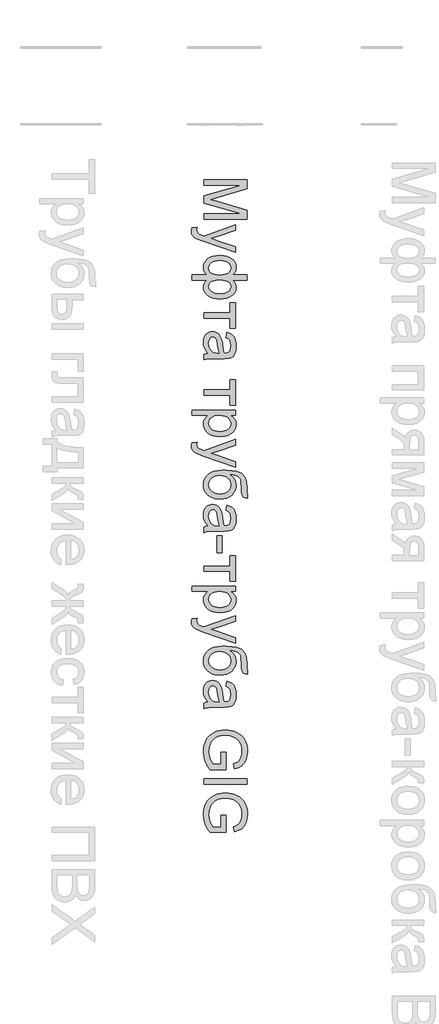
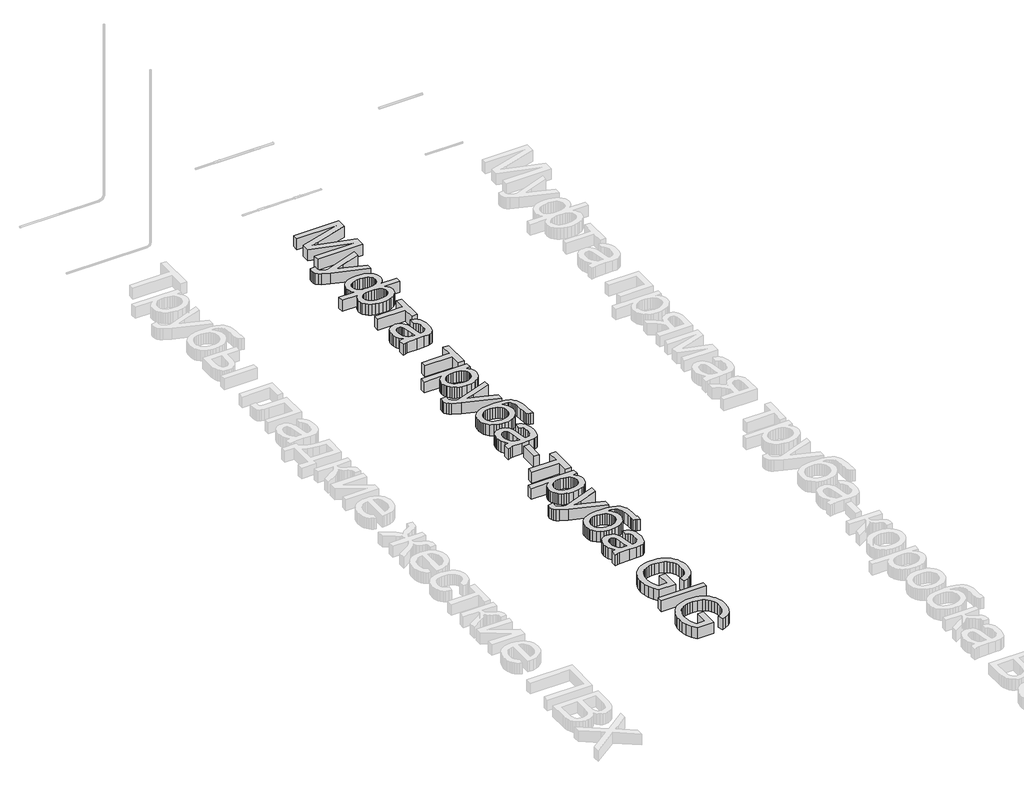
# One storey, part 12 of 33: 1 proxy.
"""IFC4 building model written with IfcOpenShell, lengths in millimetres."""

from ifc_helpers import new_model, si_unit, origin, origin_with_axes, place, context, project, spatial, polyline, outline, extrude, element, save

model = new_model("IFC4")

# Units and contexts
model_context = context("Model", 3, world=origin())
ifc_project = project(units=[si_unit("LENGTHUNIT", "METRE", prefix="MILLI")], contexts=[model_context])

# Site, building, storey
site = spatial("IfcSite", under=ifc_project)
building = spatial("IfcBuilding", under=site)
storey = spatial("IfcBuildingStorey", under=building, Name="Уровень 1", Elevation=0.0)

# Proxy
placement = place(None, origin())
element("IfcBuildingElementProxy", 1, Name="Надпись на модели 1", ObjectType="Надпись на модели 1", at=placement, inside=storey, context=model_context, shape_type="SweptSolid", body=[
    extrude(outline(polyline([(5224.4625724, -797.7209838), (5815.2318032, -797.7209838), (5815.2318032, -924.7882915), (5398.8375724, -1045.6536761), (5311.8664186, -1070.0286761), (5406.0491109, -1096.4229069), (5815.2318032, -1215.2690607), (5815.2318032, -1342.3363684), (5224.4625724, -1342.3363684), (5224.4625724, -1268.4902146), (5741.3856493, -1268.4902146), (5224.4625724, -1120.0767531), (5224.4625724, -1019.9805992), (5741.3856493, -871.5671377), (5224.4625724, -871.5671377), (5224.4625724, -797.7209838)])), origin_with_axes(), (0.0, 0.0, 1.0), 150.0),
    extrude(outline(polyline([(5058.3087262, -1462.3363684), (5129.4144955, -1453.1055992), (5122.9241109, -1490.6055992), (5124.9613705, -1510.3291569), (5131.0731493, -1525.6536761), (5140.8267551, -1537.5887723), (5153.7894955, -1547.1440607), (5208.1644955, -1567.3363684), (5226.0491109, -1573.1055992), (5658.3087262, -1416.1825223), (5658.3087262, -1494.0671377), (5417.4433416, -1577.2882915), (5321.0971878, -1606.2786761), (5406.1933416, -1635.2690607), (5658.3087262, -1720.7979069), (5658.3087262, -1798.1055992), (5214.077957, -1647.0959838), (5117.7318032, -1607.8652146), (5086.9745916, -1587.78108), (5065.6644955, -1565.0286761), (5053.2245916, -1538.5983877), (5049.077957, -1507.4805992), (5051.3856493, -1486.0983877), (5058.3087262, -1462.3363684)])), origin_with_axes(), (0.0, 0.0, 1.0), 150.0),
    extrude(outline(polyline([(5815.2318032, -2108.4902146), (5815.2318032, -2182.3363684), (5616.6260339, -2182.3363684), (5639.0358897, -2204.7462242), (5654.9193032, -2229.2834838), (5664.3844474, -2255.8399742), (5667.5394955, -2284.3075223), (5663.5280772, -2318.4947218), (5651.4938224, -2348.9409357), (5631.4367311, -2375.6461641), (5603.3568032, -2398.6104069), (5569.1921397, -2417.0674381), (5530.8808416, -2430.2510319), (5488.4229089, -2438.1611881), (5441.8183416, -2440.7979069), (5393.4875123, -2437.9583636), (5350.0334859, -2429.4397338), (5311.4562623, -2415.2420175), (5277.7558416, -2395.3652146), (5250.4015748, -2371.2696617), (5230.8628128, -2344.4156954), (5219.1395556, -2314.8033156), (5215.2318032, -2282.4325223), (5217.0346878, -2260.0406954), (5222.4433416, -2237.2882915), (5235.8928609, -2212.0839646), (5261.8183416, -2182.3363684), (5058.3087262, -2182.3363684), (5058.3087262, -2108.4902146), (5261.8183416, -2108.4902146), (5241.4818032, -2086.0262723), (5226.9144955, -2061.3267531), (5218.1524762, -2034.4637723), (5215.2318032, -2005.5094454), (5218.9637743, -1973.5262723), (5230.1596878, -1943.6344454), (5248.8195436, -1915.8339646), (5274.9433416, -1890.12483), (5308.0172599, -1868.5443011), (5347.5274762, -1853.1296377), (5393.4739907, -1843.8808396), (5445.8568032, -1840.7979069), (5491.0461061, -1843.5878708), (5532.4313224, -1851.9577627), (5570.0124522, -1865.9075824), (5603.7894955, -1885.43733), (5631.6801205, -1909.6816208), (5651.6019955, -1937.7750704), (5663.5551205, -1969.7176785), (5667.5394955, -2005.5094454), (5664.3844474, -2035.5995896), (5654.9193032, -2062.6969454), (5639.0358897, -2086.9457434), (5616.6260339, -2108.4902146), (5815.2318032, -2108.4902146)]), holes=[polyline([(5440.0875724, -2181.9036761), (5399.0403969, -2183.4406353), (5365.3219474, -2188.0515127), (5338.9322238, -2195.7363083), (5319.8712262, -2206.4950223), (5306.399171, -2219.570443), (5296.7762743, -2234.2053588), (5291.0025363, -2250.3997699), (5289.077957, -2268.1536761), (5291.4442431, -2287.881741), (5298.5431012, -2306.1043973), (5310.3745315, -2322.8216449), (5326.9385339, -2338.0334838), (5348.4875123, -2350.6852266), (5375.2738705, -2359.7221857), (5407.2976085, -2365.1443612), (5444.5587262, -2366.9517531), (5479.8051205, -2365.2840848), (5510.2558416, -2360.28108), (5535.9108897, -2351.9427386), (5556.7702647, -2340.2690607), (5572.9241109, -2325.9812002), (5584.4625724, -2309.8003107), (5591.3856493, -2291.7263925), (5593.6933416, -2271.7594454), (5591.2909979, -2250.7873901), (5584.0839666, -2232.5827627), (5572.0722479, -2217.1455631), (5555.2558416, -2204.4757915), (5533.6437623, -2194.600491), (5507.2450243, -2187.546705), (5476.0596277, -2183.3144333), (5440.0875724, -2181.9036761)]), polyline([(5447.4433416, -1914.6440607), (5408.2756734, -1916.4920175), (5375.0034378, -1922.0358877), (5347.6266349, -1931.2756713), (5326.1452647, -1944.2113684), (5309.9283176, -1959.8874502), (5298.3447839, -1977.3483877), (5291.3946637, -1996.5941809), (5289.077957, -2017.62483), (5291.3811421, -2039.1107074), (5298.2906974, -2057.702955), (5309.8066229, -2073.4015728), (5325.9289186, -2086.2065607), (5346.6575844, -2096.1449622), (5371.9926205, -2103.2438204), (5401.9340267, -2107.5031353), (5436.4818032, -2108.9229069), (5473.3282575, -2107.4310199), (5505.2618512, -2102.9553588), (5532.2825844, -2095.4959237), (5554.390457, -2085.0527146), (5571.585469, -2071.5986881), (5583.8676205, -2055.1068011), (5591.2369113, -2035.5770535), (5593.6933416, -2013.0094454), (5591.2955051, -1992.2402146), (5584.1019955, -1973.4902146), (5572.1128128, -1956.7594454), (5555.327957, -1942.0479069), (5534.1981493, -1930.0587242), (5509.1741109, -1921.4950223), (5480.2558416, -1916.3568011), (5447.4433416, -1914.6440607)])]), origin_with_axes(), (0.0, 0.0, 1.0), 150.0),
    extrude(outline(polyline([(5658.3087262, -2496.1825223), (5658.3087262, -2846.9517531), (5584.4625724, -2846.9517531), (5584.4625724, -2708.4902146), (5224.4625724, -2708.4902146), (5224.4625724, -2634.6440607), (5584.4625724, -2634.6440607), (5584.4625724, -2496.1825223), (5658.3087262, -2496.1825223)])), origin_with_axes(), (0.0, 0.0, 1.0), 150.0),
    extrude(outline(polyline([(5279.8471878, -3188.4902146), (5249.5947839, -3153.2077627), (5229.7991109, -3116.8796377), (5218.8736301, -3078.6765127), (5215.2318032, -3037.7690607), (5217.422308, -3004.8889526), (5223.9938224, -2976.0563204), (5234.9463464, -2951.2711641), (5250.2798801, -2930.5334838), (5269.0208657, -2914.1587843), (5290.1957455, -2902.4625704), (5313.8045195, -2895.444842), (5339.8471878, -2893.1055992), (5370.4601686, -2896.6392531), (5398.2606493, -2907.2402146), (5422.0587262, -2923.5923781), (5440.6644955, -2944.3796377), (5454.7269955, -2968.8087242), (5464.8952647, -2996.0863684), (5476.0010339, -3059.9805992), (5487.6837262, -3135.4854069), (5501.3856493, -3188.0575223), (5517.827957, -3188.4902146), (5550.7846878, -3183.40608), (5562.9902166, -3177.0509117), (5572.3471878, -3168.1536761), (5581.6861301, -3152.7750704), (5588.3568032, -3134.0430992), (5593.6933416, -3086.5190607), (5590.1416589, -3042.5286761), (5579.4866109, -3011.8075223), (5559.781082, -2990.8580031), (5529.077957, -2976.1825223), (5538.3087262, -2902.3363684), (5578.6933416, -2915.1548781), (5610.4241109, -2934.2834838), (5634.6909378, -2961.5070415), (5652.6837262, -2998.6104069), (5663.8255532, -3043.9890127), (5667.5394955, -3096.0382915), (5664.2582455, -3145.9601665), (5654.4144955, -3185.5334838), (5639.6128128, -3215.3712242), (5621.4577647, -3236.0863684), (5599.0118512, -3249.8243492), (5571.3375724, -3258.7305992), (5506.7221878, -3262.3363684), (5414.8471878, -3262.3363684), (5286.5539186, -3266.0863684), (5254.8411782, -3271.6392531), (5224.4625724, -3280.7979069), (5224.4625724, -3206.9517531), (5250.1356493, -3195.12483), (5279.8471878, -3188.4902146)]), holes=[polyline([(5427.5394955, -3188.4902146), (5415.2438224, -3138.87483), (5404.8952647, -3069.3555992), (5392.9241109, -3005.8219454), (5384.7390147, -2989.2894934), (5373.452957, -2977.0479069), (5359.9313224, -2969.4757915), (5345.0394955, -2966.9517531), (5323.0803609, -2972.4505511), (5305.0875724, -2988.9469454), (5293.0803609, -3016.0803588), (5289.077957, -3053.4902146), (5293.4950243, -3093.1536761), (5306.7462262, -3128.2017531), (5326.2714666, -3156.6152146), (5349.5106493, -3176.37483), (5373.452957, -3185.1368492), (5406.6260339, -3188.0575223), (5427.5394955, -3188.4902146)])]), origin_with_axes(), (0.0, 0.0, 1.0), 150.0),
    extrude(outline(polyline([(5658.3087262, -3557.7209838), (5658.3087262, -3908.4902146), (5584.4625724, -3908.4902146), (5584.4625724, -3770.0286761), (5224.4625724, -3770.0286761), (5224.4625724, -3696.1825223), (5584.4625724, -3696.1825223), (5584.4625724, -3557.7209838), (5658.3087262, -3557.7209838)])), origin_with_axes(), (0.0, 0.0, 1.0), 150.0),
    extrude(outline(polyline([(5058.3087262, -3973.1055992), (5658.3087262, -3973.1055992), (5658.3087262, -4046.9517531), (5585.9048801, -4046.9517531), (5621.6200243, -4071.0382915), (5647.1308416, -4098.0094454), (5662.437332, -4129.4517531), (5667.5394955, -4166.9517531), (5665.7546397, -4192.7059598), (5660.4000724, -4216.8916569), (5651.4757936, -4239.5088444), (5638.9818032, -4260.5575223), (5623.2426205, -4279.577955), (5604.5827647, -4296.1104069), (5583.0022359, -4310.1548781), (5558.5010339, -4321.7113684), (5504.0899762, -4337.1801184), (5444.702957, -4342.3363684), (5381.5479089, -4336.5130511), (5352.4718873, -4329.2339045), (5325.0635339, -4319.0430992), (5300.0394955, -4306.0803588), (5278.1164186, -4290.4854069), (5259.2943032, -4272.2582434), (5243.5731493, -4251.3988684), (5231.1738104, -4228.9304189), (5222.3171397, -4205.8760319), (5217.0031373, -4182.2357074), (5215.2318032, -4158.0094454), (5219.9733897, -4124.0611281), (5234.1981493, -4093.7546377), (5255.6705051, -4067.8111281), (5282.1548801, -4046.9517531), (5058.3087262, -4046.9517531), (5058.3087262, -3973.1055992)]), holes=[polyline([(5437.9241109, -4046.9517531), (5402.3351686, -4048.9484478), (5371.7221878, -4054.9385319), (5346.0851686, -4064.9220055), (5325.4241109, -4078.8988684), (5309.5226686, -4095.7242891), (5298.1644955, -4114.2534357), (5291.3495916, -4134.4863083), (5289.077957, -4156.4229069), (5291.4307214, -4178.6750103), (5298.4890147, -4199.2774742), (5310.2528368, -4218.2302987), (5326.7221878, -4235.5334838), (5348.1314426, -4249.9520535), (5374.7149762, -4260.2510319), (5406.4727887, -4266.4304189), (5443.4048801, -4268.4902146), (5478.687332, -4266.4799982), (5509.2462262, -4260.4493492), (5535.0815628, -4250.3982675), (5556.1933416, -4236.3267531), (5572.5995916, -4219.4607675), (5584.3183416, -4201.0262723), (5591.3495916, -4181.0232675), (5593.6933416, -4159.4517531), (5591.2008537, -4137.9478468), (5583.7233897, -4117.7149742), (5571.2609498, -4098.7531353), (5553.8135339, -4081.06233), (5531.6155171, -4066.1389526), (5504.9012743, -4055.4793973), (5473.6708056, -4049.0836641), (5437.9241109, -4046.9517531)])]), origin_with_axes(), (0.0, 0.0, 1.0), 150.0),
    extrude(outline(polyline([(5058.3087262, -4425.4132915), (5129.4144955, -4416.1825223), (5122.9241109, -4453.6825223), (5124.9613705, -4473.40608), (5131.0731493, -4488.7305992), (5140.8267551, -4500.6656954), (5153.7894955, -4510.2209838), (5208.1644955, -4530.4132915), (5226.0491109, -4536.1825223), (5658.3087262, -4379.2594454), (5658.3087262, -4457.1440607), (5417.4433416, -4540.3652146), (5321.0971878, -4569.3555992), (5406.1933416, -4598.3459838), (5658.3087262, -4683.87483), (5658.3087262, -4761.1825223), (5214.077957, -4610.1729069), (5117.7318032, -4570.9421377), (5086.9745916, -4550.8580031), (5065.6644955, -4528.1055992), (5053.2245916, -4501.6753107), (5049.077957, -4470.5575223), (5051.3856493, -4449.1753107), (5058.3087262, -4425.4132915)])), origin_with_axes(), (0.0, 0.0, 1.0), 150.0),
    extrude(outline(polyline([(5824.4625724, -5126.9517531), (5824.4625724, -5191.5671377), (5789.3604089, -5184.5719454), (5766.8423801, -5172.5286761), (5753.5190628, -5155.8339646), (5746.0010339, -5134.8844454), (5742.5394955, -5100.7378107), (5741.3856493, -5044.4517531), (5737.1308416, -4969.3616088), (5731.812332, -4942.4580631), (5724.3664186, -4922.6488684), (5714.5767551, -4907.5316809), (5702.2269955, -4894.7041569), (5687.3171397, -4884.1662963), (5669.8471878, -4875.9180992), (5626.9745916, -4864.8664165), (5573.3568032, -4860.12483), (5614.6068032, -4889.8183396), (5644.0298801, -4924.0911761), (5661.6620916, -4962.9793973), (5667.5394955, -5006.5190607), (5663.8030171, -5046.7504309), (5652.593582, -5083.3580031), (5633.9111902, -5116.3417771), (5607.7558416, -5145.7017531), (5575.227296, -5169.8063204), (5537.4253128, -5187.0238684), (5494.3498921, -5197.3543973), (5446.0010339, -5200.7979069), (5409.0148561, -5199.0896737), (5375.5082455, -5193.9649742), (5345.4812022, -5185.4238083), (5318.9337262, -5173.4661761), (5274.9613705, -5143.5923781), (5242.2750724, -5108.6344454), (5230.4436421, -5088.1897338), (5221.9926205, -5064.3555992), (5216.9220075, -5037.1320415), (5215.2318032, -5006.5190607), (5217.4087863, -4971.1058997), (5223.9397359, -4939.8664165), (5234.8246517, -4912.8006112), (5250.0635339, -4889.9084838), (5268.6963464, -4870.3156353), (5289.7630532, -4853.1476665), (5313.2636541, -4838.4045776), (5339.1981493, -4826.0863684), (5371.3841469, -4816.3688204), (5413.6392551, -4809.4277146), (5465.9634738, -4805.2630511), (5528.3568032, -4803.87483), (5606.1107094, -4807.3769333), (5670.0455051, -4817.8832434), (5720.1611902, -4835.3937603), (5740.0368663, -4846.7755962), (5756.4577647, -4859.9084838), (5782.1714065, -4891.6888324), (5800.5382936, -4930.9962242), (5811.5584258, -4977.8306593), (5815.2318032, -5032.1921377), (5816.890457, -5114.4036761), (5819.6128128, -5122.4445415), (5824.4625724, -5126.9517531)]), holes=[polyline([(5448.3087262, -5126.9517531), (5478.8090267, -5124.9505511), (5506.4156974, -5118.9469454), (5531.1287383, -5108.9409357), (5552.9481493, -5094.9325223), (5570.774171, -5077.2822819), (5583.5070436, -5056.3507915), (5591.1467671, -5032.1380511), (5593.6933416, -5004.6440607), (5591.0025363, -4975.9511521), (5582.9301205, -4950.7378107), (5569.476094, -4929.0040367), (5550.640457, -4910.74983), (5527.3066229, -4896.2997098), (5500.3580051, -4885.9781954), (5469.7946037, -4879.7852867), (5435.6164186, -4877.7209838), (5402.1503729, -4880.0016329), (5372.8580051, -4886.84358), (5347.7393152, -4898.2468252), (5326.7943032, -4914.2113684), (5310.2934017, -4933.5202627), (5298.5070436, -4954.9565607), (5291.4352287, -4978.5202627), (5289.077957, -5004.2113684), (5291.80482, -5030.2540367), (5299.9854089, -5053.71858), (5313.6197238, -5074.6049982), (5332.7077647, -5092.9132915), (5356.2940027, -5107.8051184), (5383.4229089, -5118.4421377), (5414.0944835, -5124.8243492), (5448.3087262, -5126.9517531)])]), origin_with_axes(), (0.0, 0.0, 1.0), 150.0),
    extrude(outline(polyline([(5279.8471878, -5570.0286761), (5249.5947839, -5534.7462242), (5229.7991109, -5498.4180992), (5218.8736301, -5460.2149742), (5215.2318032, -5419.3075223), (5217.422308, -5386.4274141), (5223.9938224, -5357.5947819), (5234.9463464, -5332.8096256), (5250.2798801, -5312.0719454), (5269.0208657, -5295.6972458), (5290.1957455, -5284.0010319), (5313.8045195, -5276.9833035), (5339.8471878, -5274.6440607), (5370.4601686, -5278.1777146), (5398.2606493, -5288.7786761), (5422.0587262, -5305.1308396), (5440.6644955, -5325.9180992), (5454.7269955, -5350.3471857), (5464.8952647, -5377.62483), (5476.0010339, -5441.5190607), (5487.6837262, -5517.0238684), (5501.3856493, -5569.5959838), (5517.827957, -5570.0286761), (5550.7846878, -5564.9445415), (5562.9902166, -5558.5893732), (5572.3471878, -5549.6921377), (5581.6861301, -5534.3135319), (5588.3568032, -5515.5815607), (5593.6933416, -5468.0575223), (5590.1416589, -5424.0671377), (5579.4866109, -5393.3459838), (5559.781082, -5372.3964646), (5529.077957, -5357.7209838), (5538.3087262, -5283.87483), (5578.6933416, -5296.6933396), (5610.4241109, -5315.8219454), (5634.6909378, -5343.0455031), (5652.6837262, -5380.1488684), (5663.8255532, -5425.5274742), (5667.5394955, -5477.5767531), (5664.2582455, -5527.4986281), (5654.4144955, -5567.0719454), (5639.6128128, -5596.9096857), (5621.4577647, -5617.62483), (5599.0118512, -5631.3628107), (5571.3375724, -5640.2690607), (5506.7221878, -5643.87483), (5414.8471878, -5643.87483), (5286.5539186, -5647.62483), (5254.8411782, -5653.1777146), (5224.4625724, -5662.3363684), (5224.4625724, -5588.4902146), (5250.1356493, -5576.6632915), (5279.8471878, -5570.0286761)]), holes=[polyline([(5427.5394955, -5570.0286761), (5415.2438224, -5520.4132915), (5404.8952647, -5450.8940607), (5392.9241109, -5387.3604069), (5384.7390147, -5370.827955), (5373.452957, -5358.5863684), (5359.9313224, -5351.0142531), (5345.0394955, -5348.4902146), (5323.0803609, -5353.9890127), (5305.0875724, -5370.4854069), (5293.0803609, -5397.6188204), (5289.077957, -5435.0286761), (5293.4950243, -5474.6921377), (5306.7462262, -5509.7402146), (5326.2714666, -5538.1536761), (5349.5106493, -5557.9132915), (5373.452957, -5566.6753107), (5406.6260339, -5569.5959838), (5427.5394955, -5570.0286761)])]), origin_with_axes(), (0.0, 0.0, 1.0), 150.0),
    extrude(outline(polyline([(5399.8471878, -5708.4902146), (5473.6933416, -5708.4902146), (5473.6933416, -5939.2594454), (5399.8471878, -5939.2594454), (5399.8471878, -5708.4902146)])), origin_with_axes(), (0.0, 0.0, 1.0), 150.0),
    extrude(outline(polyline([(5658.3087262, -5985.4132915), (5658.3087262, -6336.1825223), (5584.4625724, -6336.1825223), (5584.4625724, -6197.7209838), (5224.4625724, -6197.7209838), (5224.4625724, -6123.87483), (5584.4625724, -6123.87483), (5584.4625724, -5985.4132915), (5658.3087262, -5985.4132915)])), origin_with_axes(), (0.0, 0.0, 1.0), 150.0),
    extrude(outline(polyline([(5058.3087262, -6400.7979069), (5658.3087262, -6400.7979069), (5658.3087262, -6474.6440607), (5585.9048801, -6474.6440607), (5621.6200243, -6498.7305992), (5647.1308416, -6525.7017531), (5662.437332, -6557.1440607), (5667.5394955, -6594.6440607), (5665.7546397, -6620.3982675), (5660.4000724, -6644.5839646), (5651.4757936, -6667.2011521), (5638.9818032, -6688.24983), (5623.2426205, -6707.2702627), (5604.5827647, -6723.8027146), (5583.0022359, -6737.8471857), (5558.5010339, -6749.4036761), (5504.0899762, -6764.8724261), (5444.702957, -6770.0286761), (5381.5479089, -6764.2053588), (5352.4718873, -6756.9262122), (5325.0635339, -6746.7354069), (5300.0394955, -6733.7726665), (5278.1164186, -6718.1777146), (5259.2943032, -6699.9505511), (5243.5731493, -6679.0911761), (5231.1738104, -6656.6227266), (5222.3171397, -6633.5683396), (5217.0031373, -6609.9280151), (5215.2318032, -6585.7017531), (5219.9733897, -6551.7534357), (5234.1981493, -6521.4469454), (5255.6705051, -6495.5034357), (5282.1548801, -6474.6440607), (5058.3087262, -6474.6440607), (5058.3087262, -6400.7979069)]), holes=[polyline([(5437.9241109, -6474.6440607), (5402.3351686, -6476.6407555), (5371.7221878, -6482.6308396), (5346.0851686, -6492.6143131), (5325.4241109, -6506.5911761), (5309.5226686, -6523.4165968), (5298.1644955, -6541.9457434), (5291.3495916, -6562.178616), (5289.077957, -6584.1152146), (5291.4307214, -6606.367318), (5298.4890147, -6626.9697819), (5310.2528368, -6645.9226064), (5326.7221878, -6663.2257915), (5348.1314426, -6677.6443612), (5374.7149762, -6687.9433396), (5406.4727887, -6694.1227266), (5443.4048801, -6696.1825223), (5478.687332, -6694.1723059), (5509.2462262, -6688.1416569), (5535.0815628, -6678.0905752), (5556.1933416, -6664.0190607), (5572.5995916, -6647.1530752), (5584.3183416, -6628.71858), (5591.3495916, -6608.7155752), (5593.6933416, -6587.1440607), (5591.2008537, -6565.6401545), (5583.7233897, -6545.4072819), (5571.2609498, -6526.445443), (5553.8135339, -6508.7546377), (5531.6155171, -6493.8312603), (5504.9012743, -6483.171705), (5473.6708056, -6476.7759718), (5437.9241109, -6474.6440607)])]), origin_with_axes(), (0.0, 0.0, 1.0), 150.0),
    extrude(outline(polyline([(5058.3087262, -6853.1055992), (5129.4144955, -6843.87483), (5122.9241109, -6881.37483), (5124.9613705, -6901.0983877), (5131.0731493, -6916.4229069), (5140.8267551, -6928.3580031), (5153.7894955, -6937.9132915), (5208.1644955, -6958.1055992), (5226.0491109, -6963.87483), (5658.3087262, -6806.9517531), (5658.3087262, -6884.8363684), (5417.4433416, -6968.0575223), (5321.0971878, -6997.0479069), (5406.1933416, -7026.0382915), (5658.3087262, -7111.5671377), (5658.3087262, -7188.87483), (5214.077957, -7037.8652146), (5117.7318032, -6998.6344454), (5086.9745916, -6978.5503107), (5065.6644955, -6955.7979069), (5053.2245916, -6929.3676184), (5049.077957, -6898.24983), (5051.3856493, -6876.8676184), (5058.3087262, -6853.1055992)])), origin_with_axes(), (0.0, 0.0, 1.0), 150.0),
    extrude(outline(polyline([(5824.4625724, -7554.6440607), (5824.4625724, -7619.2594454), (5789.3604089, -7612.2642531), (5766.8423801, -7600.2209838), (5753.5190628, -7583.5262723), (5746.0010339, -7562.5767531), (5742.5394955, -7528.4301184), (5741.3856493, -7472.1440607), (5737.1308416, -7397.0539165), (5731.812332, -7370.1503708), (5724.3664186, -7350.3411761), (5714.5767551, -7335.2239886), (5702.2269955, -7322.3964646), (5687.3171397, -7311.858604), (5669.8471878, -7303.6104069), (5626.9745916, -7292.5587242), (5573.3568032, -7287.8171377), (5614.6068032, -7317.5106473), (5644.0298801, -7351.7834838), (5661.6620916, -7390.671705), (5667.5394955, -7434.2113684), (5663.8030171, -7474.4427386), (5652.593582, -7511.0503107), (5633.9111902, -7544.0340848), (5607.7558416, -7573.3940607), (5575.227296, -7597.4986281), (5537.4253128, -7614.7161761), (5494.3498921, -7625.046705), (5446.0010339, -7628.4902146), (5409.0148561, -7626.7819814), (5375.5082455, -7621.6572819), (5345.4812022, -7613.116116), (5318.9337262, -7601.1584838), (5274.9613705, -7571.2846857), (5242.2750724, -7536.3267531), (5230.4436421, -7515.8820415), (5221.9926205, -7492.0479069), (5216.9220075, -7464.8243492), (5215.2318032, -7434.2113684), (5217.4087863, -7398.7982074), (5223.9397359, -7367.5587242), (5234.8246517, -7340.4929189), (5250.0635339, -7317.6007915), (5268.6963464, -7298.007943), (5289.7630532, -7280.8399742), (5313.2636541, -7266.0968853), (5339.1981493, -7253.7786761), (5371.3841469, -7244.0611281), (5413.6392551, -7237.1200223), (5465.9634738, -7232.9553588), (5528.3568032, -7231.5671377), (5606.1107094, -7235.069241), (5670.0455051, -7245.5755511), (5720.1611902, -7263.086068), (5740.0368663, -7274.4679039), (5756.4577647, -7287.6007915), (5782.1714065, -7319.3811401), (5800.5382936, -7358.6885319), (5811.5584258, -7405.522967), (5815.2318032, -7459.8844454), (5816.890457, -7542.0959838), (5819.6128128, -7550.1368492), (5824.4625724, -7554.6440607)]), holes=[polyline([(5448.3087262, -7554.6440607), (5478.8090267, -7552.6428588), (5506.4156974, -7546.6392531), (5531.1287383, -7536.6332434), (5552.9481493, -7522.62483), (5570.774171, -7504.9745896), (5583.5070436, -7484.0430992), (5591.1467671, -7459.8303588), (5593.6933416, -7432.3363684), (5591.0025363, -7403.6434598), (5582.9301205, -7378.4301184), (5569.476094, -7356.6963444), (5550.640457, -7338.4421377), (5527.3066229, -7323.9920175), (5500.3580051, -7313.6705031), (5469.7946037, -7307.4775944), (5435.6164186, -7305.4132915), (5402.1503729, -7307.6939406), (5372.8580051, -7314.5358877), (5347.7393152, -7325.9391329), (5326.7943032, -7341.9036761), (5310.2934017, -7361.2125704), (5298.5070436, -7382.6488684), (5291.4352287, -7406.2125704), (5289.077957, -7431.9036761), (5291.80482, -7457.9463444), (5299.9854089, -7481.4108877), (5313.6197238, -7502.2973059), (5332.7077647, -7520.6055992), (5356.2940027, -7535.4974261), (5383.4229089, -7546.1344454), (5414.0944835, -7552.5166569), (5448.3087262, -7554.6440607)])]), origin_with_axes(), (0.0, 0.0, 1.0), 150.0),
    extrude(outline(polyline([(5279.8471878, -7997.7209838), (5249.5947839, -7962.4385319), (5229.7991109, -7926.1104069), (5218.8736301, -7887.9072819), (5215.2318032, -7846.99983), (5217.422308, -7814.1197218), (5223.9938224, -7785.2870896), (5234.9463464, -7760.5019333), (5250.2798801, -7739.7642531), (5269.0208657, -7723.3895535), (5290.1957455, -7711.6933396), (5313.8045195, -7704.6756112), (5339.8471878, -7702.3363684), (5370.4601686, -7705.8700223), (5398.2606493, -7716.4709838), (5422.0587262, -7732.8231473), (5440.6644955, -7753.6104069), (5454.7269955, -7778.0394934), (5464.8952647, -7805.3171377), (5476.0010339, -7869.2113684), (5487.6837262, -7944.7161761), (5501.3856493, -7997.2882915), (5517.827957, -7997.7209838), (5550.7846878, -7992.6368492), (5562.9902166, -7986.2816809), (5572.3471878, -7977.3844454), (5581.6861301, -7962.0058396), (5588.3568032, -7943.2738684), (5593.6933416, -7895.74983), (5590.1416589, -7851.7594454), (5579.4866109, -7821.0382915), (5559.781082, -7800.0887723), (5529.077957, -7785.4132915), (5538.3087262, -7711.5671377), (5578.6933416, -7724.3856473), (5610.4241109, -7743.5142531), (5634.6909378, -7770.7378107), (5652.6837262, -7807.8411761), (5663.8255532, -7853.2197819), (5667.5394955, -7905.2690607), (5664.2582455, -7955.1909357), (5654.4144955, -7994.7642531), (5639.6128128, -8024.6019934), (5621.4577647, -8045.3171377), (5599.0118512, -8059.0551184), (5571.3375724, -8067.9613684), (5506.7221878, -8071.5671377), (5414.8471878, -8071.5671377), (5286.5539186, -8075.3171377), (5254.8411782, -8080.8700223), (5224.4625724, -8090.0286761), (5224.4625724, -8016.1825223), (5250.1356493, -8004.3555992), (5279.8471878, -7997.7209838)]), holes=[polyline([(5427.5394955, -7997.7209838), (5415.2438224, -7948.1055992), (5404.8952647, -7878.5863684), (5392.9241109, -7815.0527146), (5384.7390147, -7798.5202627), (5373.452957, -7786.2786761), (5359.9313224, -7778.7065607), (5345.0394955, -7776.1825223), (5323.0803609, -7781.6813204), (5305.0875724, -7798.1777146), (5293.0803609, -7825.3111281), (5289.077957, -7862.7209838), (5293.4950243, -7902.3844454), (5306.7462262, -7937.4325223), (5326.2714666, -7965.8459838), (5349.5106493, -7985.6055992), (5373.452957, -7994.3676184), (5406.6260339, -7997.2882915), (5427.5394955, -7997.7209838)])]), origin_with_axes(), (0.0, 0.0, 1.0), 150.0),
    extrude(outline(polyline([(5455.2318032, -8690.0286761), (5529.077957, -8690.0286761), (5529.077957, -8930.0286761), (5308.2606493, -8930.0286761), (5267.6957455, -8871.7053588), (5238.5971878, -8811.5430992), (5221.0731493, -8749.6861281), (5215.2318032, -8686.2786761), (5217.5530171, -8643.8613083), (5224.5166589, -8603.4361281), (5236.1227287, -8565.0031353), (5252.3712262, -8528.56233), (5273.0187623, -8495.2900944), (5297.8219474, -8466.3628107), (5326.7807815, -8441.780479), (5359.8952647, -8421.5430992), (5396.1062022, -8405.7363083), (5434.3543993, -8394.4457434), (5474.6398561, -8387.6714045), (5516.9625724, -8385.4132915), (5559.289796, -8387.6623901), (5600.1656974, -8394.4096857), (5639.5902767, -8405.6551785), (5677.5635339, -8421.3988684), (5712.4178008, -8441.3613083), (5742.4854089, -8465.2630511), (5767.7663585, -8493.1040968), (5788.2606493, -8524.8844454), (5804.0989907, -8559.9144934), (5815.4120916, -8597.5046377), (5822.1999522, -8637.6548781), (5824.4625724, -8680.3652146), (5819.2161782, -8741.1945415), (5803.4769955, -8795.8940607), (5778.3808416, -8841.9577627), (5762.749832, -8860.8114285), (5745.0635339, -8876.8796377), (5701.9205051, -8902.7149742), (5647.3471878, -8921.5190607), (5628.1644955, -8853.4421377), (5667.0887743, -8838.2438204), (5696.4577647, -8819.7642531), (5718.5971878, -8795.3171377), (5735.8327647, -8762.2161761), (5746.9205051, -8722.7510319), (5750.6164186, -8679.2113684), (5746.6320436, -8628.2438204), (5734.6789186, -8584.6680992), (5716.2534378, -8548.6464646), (5692.8519955, -8520.3411761), (5665.6825243, -8498.6164165), (5635.952957, -8482.3363684), (5580.2077647, -8465.0286761), (5519.9914186, -8459.2594454), (5483.117921, -8460.9947218), (5449.3724282, -8466.2005511), (5418.7549402, -8474.8769333), (5391.265457, -8487.0238684), (5367.0076445, -8502.483604), (5346.0851686, -8521.0983877), (5328.4980291, -8542.8682194), (5314.2462262, -8567.7930992), (5303.2351085, -8594.7056593), (5295.3700243, -8622.4385319), (5290.6509738, -8650.991717), (5289.077957, -8680.3652146), (5293.8195436, -8731.5130511), (5308.0443032, -8781.3988684), (5327.6416589, -8824.7221857), (5348.5010339, -8856.1825223), (5455.2318032, -8856.1825223), (5455.2318032, -8690.0286761)])), origin_with_axes(), (0.0, 0.0, 1.0), 150.0),
    extrude(outline(polyline([(5224.4625724, -9059.2594454), (5815.2318032, -9059.2594454), (5815.2318032, -9133.1055992), (5224.4625724, -9133.1055992), (5224.4625724, -9059.2594454)])), origin_with_axes(), (0.0, 0.0, 1.0), 150.0),
    extrude(outline(polyline([(5455.2318032, -9557.7209838), (5529.077957, -9557.7209838), (5529.077957, -9797.7209838), (5308.2606493, -9797.7209838), (5267.6957455, -9739.3976665), (5238.5971878, -9679.2354069), (5221.0731493, -9617.3784357), (5215.2318032, -9553.9709838), (5217.5530171, -9511.553616), (5224.5166589, -9471.1284357), (5236.1227287, -9432.695443), (5252.3712262, -9396.2546377), (5273.0187623, -9362.9824021), (5297.8219474, -9334.0551184), (5326.7807815, -9309.4727867), (5359.8952647, -9289.2354069), (5396.1062022, -9273.428616), (5434.3543993, -9262.1380511), (5474.6398561, -9255.3637122), (5516.9625724, -9253.1055992), (5559.289796, -9255.3546978), (5600.1656974, -9262.1019934), (5639.5902767, -9273.3474862), (5677.5635339, -9289.0911761), (5712.4178008, -9309.053616), (5742.4854089, -9332.9553588), (5767.7663585, -9360.7964045), (5788.2606493, -9392.5767531), (5804.0989907, -9427.6068011), (5815.4120916, -9465.1969454), (5822.1999522, -9505.3471857), (5824.4625724, -9548.0575223), (5819.2161782, -9608.8868492), (5803.4769955, -9663.5863684), (5778.3808416, -9709.6500704), (5762.749832, -9728.5037362), (5745.0635339, -9744.5719454), (5701.9205051, -9770.4072819), (5647.3471878, -9789.2113684), (5628.1644955, -9721.1344454), (5667.0887743, -9705.9361281), (5696.4577647, -9687.4565607), (5718.5971878, -9663.0094454), (5735.8327647, -9629.9084838), (5746.9205051, -9590.4433396), (5750.6164186, -9546.9036761), (5746.6320436, -9495.9361281), (5734.6789186, -9452.3604069), (5716.2534378, -9416.3387723), (5692.8519955, -9388.0334838), (5665.6825243, -9366.3087242), (5635.952957, -9350.0286761), (5580.2077647, -9332.7209838), (5519.9914186, -9326.9517531), (5483.117921, -9328.6870295), (5449.3724282, -9333.8928588), (5418.7549402, -9342.569241), (5391.265457, -9354.7161761), (5367.0076445, -9370.1759117), (5346.0851686, -9388.7906954), (5328.4980291, -9410.5605271), (5314.2462262, -9435.4854069), (5303.2351085, -9462.397967), (5295.3700243, -9490.1308396), (5290.6509738, -9518.6840247), (5289.077957, -9548.0575223), (5293.8195436, -9599.2053588), (5308.0443032, -9649.0911761), (5327.6416589, -9692.4144934), (5348.5010339, -9723.87483), (5455.2318032, -9723.87483), (5455.2318032, -9557.7209838)])), origin_with_axes(), (0.0, 0.0, 1.0), 150.0),
])

save(model, "model.ifc")
